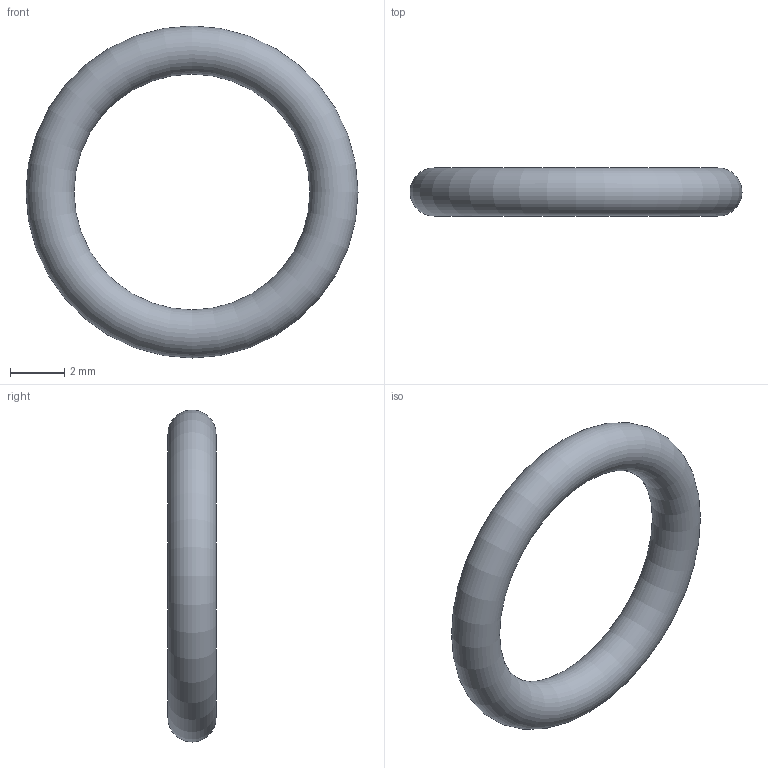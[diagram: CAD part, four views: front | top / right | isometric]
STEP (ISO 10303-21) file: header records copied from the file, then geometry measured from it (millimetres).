
FILE_DESCRIPTION( ( 'STEP AP203' ), '1' );
FILE_NAME( 'C:/Temp/Ganter_Step_05_03_2020/data/3_5/or638/O-Ring OR638-8.73-1.78-70.stp', '2020-03-12T13:44:20', ( 'License CC BY-ND 4.0' ), ( 'CADENAS' ), ' ', 'PARTsolutions', ' ' );
FILE_SCHEMA( ( 'CONFIG_CONTROL_DESIGN' ) );
Length unit declared in the file: millimetre
Products named in the file (1): _O-Ring OR638-8.73-1.78-70
Bounding box: 12.29 x 1.78 x 12.29 mm (x, y, z)
Volume: 82.2 mm3; surface area: 184.6 mm2
Topology: 1 solids, 1 shells, 1 faces, 2 edges, 1 vertices
Faces by surface type: torus 1
Entity records: 62 total; most frequent: CC_DESIGN_PERSON_AND_ORGANIZATION_ASSIGNMENT 5, PERSON_AND_ORGANIZATION_ROLE 4, DIRECTION 4, CARTESIAN_POINT 3, DATE_TIME_ROLE 2, CC_DESIGN_DATE_AND_TIME_ASSIGNMENT 2, AXIS2_PLACEMENT_3D 2, DIMENSIONAL_EXPONENTS 2
